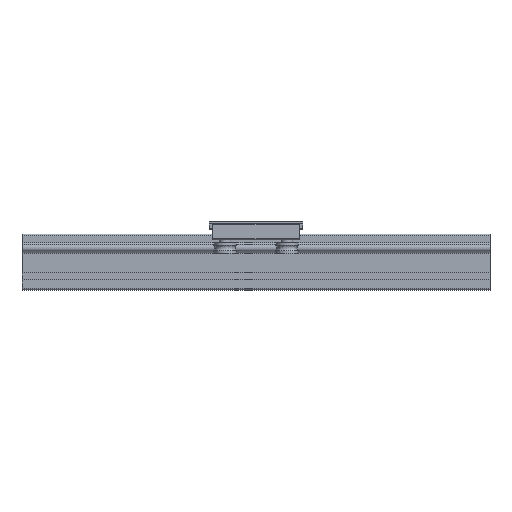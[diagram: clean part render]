
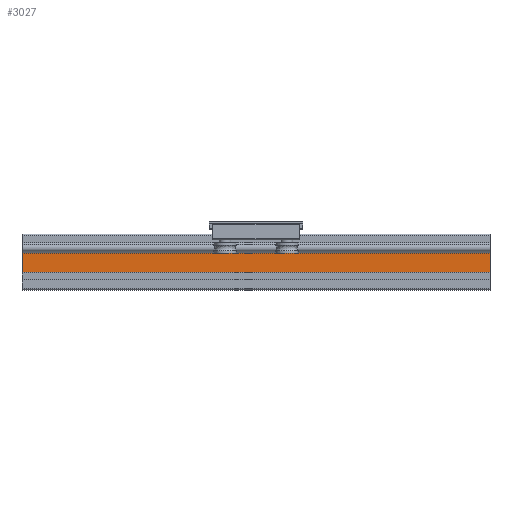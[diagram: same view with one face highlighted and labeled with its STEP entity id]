
A CAD part, front view. The second image highlights one B-rep face of the part: STEP entity #3027.
In plain terms, the highlighted planar face has unit normal (0, -1, 0).
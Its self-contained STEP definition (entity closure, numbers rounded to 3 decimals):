
#2971=CARTESIAN_POINT('',(500.0,-15.,-26.));
#2972=VERTEX_POINT('',#2971);
#2979=CARTESIAN_POINT('',(0.0,-15.,-26.));
#2980=VERTEX_POINT('',#2979);
#2981=CARTESIAN_POINT('',(0.0,-15.,-26.));
#2982=DIRECTION('',(1.0,0.0,0.0));
#2983=VECTOR('',#2982,500.0);
#2984=LINE('',#2981,#2983);
#2985=EDGE_CURVE('',#2980,#2972,#2984,.T.);
#2997=CARTESIAN_POINT('',(0.0,-15.,-26.));
#2998=DIRECTION('',(0.0,-1.0,0.0));
#2999=DIRECTION('',(0.0,0.0,-1.0));
#3000=AXIS2_PLACEMENT_3D('',#2997,#2998,#2999);
#3001=PLANE('',#3000);
#3002=CARTESIAN_POINT('',(500.0,-15.,-5.4));
#3003=VERTEX_POINT('',#3002);
#3004=CARTESIAN_POINT('',(500.0,-15.,-26.));
#3005=DIRECTION('',(0.0,0.0,1.0));
#3006=VECTOR('',#3005,20.6);
#3007=LINE('',#3004,#3006);
#3008=EDGE_CURVE('',#2972,#3003,#3007,.T.);
#3009=ORIENTED_EDGE('',*,*,#3008,.T.);
#3010=CARTESIAN_POINT('',(0.0,-15.,-5.4));
#3011=VERTEX_POINT('',#3010);
#3012=CARTESIAN_POINT('',(0.0,-15.,-5.4));
#3013=DIRECTION('',(1.0,0.0,0.0));
#3014=VECTOR('',#3013,500.0);
#3015=LINE('',#3012,#3014);
#3016=EDGE_CURVE('',#3011,#3003,#3015,.T.);
#3017=ORIENTED_EDGE('',*,*,#3016,.F.);
#3018=CARTESIAN_POINT('',(0.0,-15.,-5.4));
#3019=DIRECTION('',(0.0,0.0,-1.0));
#3020=VECTOR('',#3019,20.6);
#3021=LINE('',#3018,#3020);
#3022=EDGE_CURVE('',#3011,#2980,#3021,.T.);
#3023=ORIENTED_EDGE('',*,*,#3022,.T.);
#3024=ORIENTED_EDGE('',*,*,#2985,.T.);
#3025=EDGE_LOOP('',(#3009,#3017,#3023,#3024));
#3026=FACE_OUTER_BOUND('',#3025,.T.);
#3027=ADVANCED_FACE('',(#3026),#3001,.T.);
